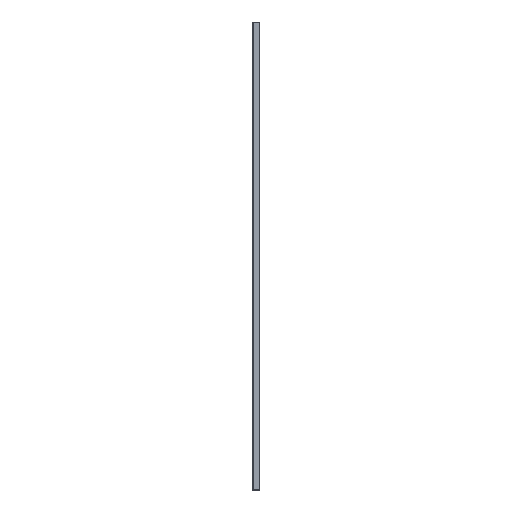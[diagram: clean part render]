
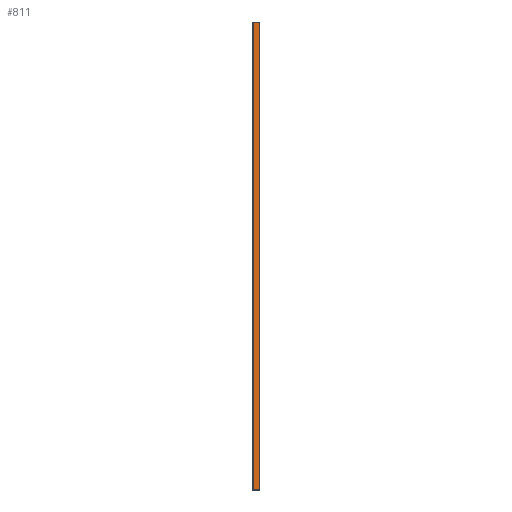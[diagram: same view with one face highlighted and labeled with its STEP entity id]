
A CAD part, left-side view. The second image highlights one B-rep face of the part: STEP entity #811.
In plain terms, the highlighted planar face has unit normal (-1, 0, 0).
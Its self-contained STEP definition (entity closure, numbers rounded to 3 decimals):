
#6 = DIRECTION ( 'NONE',  ( 0., 0., 1. ) ) ;
#36 = VECTOR ( 'NONE', #486, 1000. ) ;
#51 = CARTESIAN_POINT ( 'NONE',  ( -1001.5, -20., 50. ) ) ;
#195 = CARTESIAN_POINT ( 'NONE',  ( -1001.5, -20., -1350. ) ) ;
#200 = EDGE_CURVE ( 'NONE', #504, #294, #543, .T. ) ;
#247 = DIRECTION ( 'NONE',  ( -1., 0., 0. ) ) ;
#272 = EDGE_LOOP ( 'NONE', ( #818, #784, #627, #789 ) ) ;
#294 = VERTEX_POINT ( 'NONE', #443 ) ;
#327 = DIRECTION ( 'NONE',  ( 0., 0., 1. ) ) ;
#341 = CARTESIAN_POINT ( 'NONE',  ( -1001.5, -20., -1350. ) ) ;
#352 = FACE_OUTER_BOUND ( 'NONE', #272, .T. ) ;
#372 = VERTEX_POINT ( 'NONE', #51 ) ;
#427 = CARTESIAN_POINT ( 'NONE',  ( -1001.5, 0., -1350. ) ) ;
#443 = CARTESIAN_POINT ( 'NONE',  ( -1001.5, 0., -1350. ) ) ;
#446 = VERTEX_POINT ( 'NONE', #984 ) ;
#486 = DIRECTION ( 'NONE',  ( 0., 1., 0. ) ) ;
#504 = VERTEX_POINT ( 'NONE', #845 ) ;
#530 = LINE ( 'NONE', #659, #36 ) ;
#543 = LINE ( 'NONE', #1067, #799 ) ;
#627 = ORIENTED_EDGE ( 'NONE', *, *, #979, .T. ) ;
#651 = VECTOR ( 'NONE', #6, 1000. ) ;
#659 = CARTESIAN_POINT ( 'NONE',  ( -1001.5, -20., 50. ) ) ;
#784 = ORIENTED_EDGE ( 'NONE', *, *, #200, .F. ) ;
#789 = ORIENTED_EDGE ( 'NONE', *, *, #1006, .T. ) ;
#799 = VECTOR ( 'NONE', #1083, 1000. ) ;
#811 = ADVANCED_FACE ( 'NONE', ( #352 ), #1118, .T. ) ;
#818 = ORIENTED_EDGE ( 'NONE', *, *, #1051, .F. ) ;
#845 = CARTESIAN_POINT ( 'NONE',  ( -1001.5, -20., -1350. ) ) ;
#916 = AXIS2_PLACEMENT_3D ( 'NONE', #341, #247, #327 ) ;
#971 = LINE ( 'NONE', #195, #1010 ) ;
#979 = EDGE_CURVE ( 'NONE', #504, #372, #971, .T. ) ;
#984 = CARTESIAN_POINT ( 'NONE',  ( -1001.5, 0., 50. ) ) ;
#1006 = EDGE_CURVE ( 'NONE', #372, #446, #530, .T. ) ;
#1010 = VECTOR ( 'NONE', #1050, 1000. ) ;
#1031 = LINE ( 'NONE', #427, #651 ) ;
#1050 = DIRECTION ( 'NONE',  ( 0., 0., 1. ) ) ;
#1051 = EDGE_CURVE ( 'NONE', #294, #446, #1031, .T. ) ;
#1067 = CARTESIAN_POINT ( 'NONE',  ( -1001.5, -20., -1350. ) ) ;
#1083 = DIRECTION ( 'NONE',  ( 0., 1., 0. ) ) ;
#1118 = PLANE ( 'NONE',  #916 ) ;
